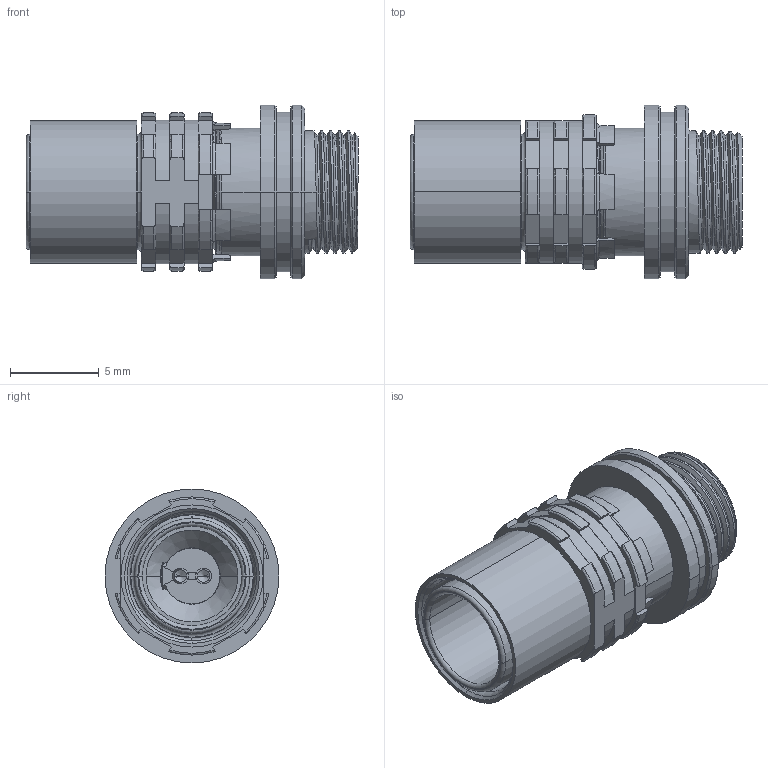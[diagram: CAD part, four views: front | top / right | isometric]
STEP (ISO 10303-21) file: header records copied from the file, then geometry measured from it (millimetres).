
FILE_DESCRIPTION((''),'2;1');
FILE_NAME('KCCWAM-P02WCE0-0000_EXTERN','2020-12-23T12:33:58',('FHeitzinger'),(''),'CREO PARAMETRIC BY PTC INC, 2018300','CREO PARAMETRIC BY PTC INC, 2018300','');
FILE_SCHEMA(('AP242_MANAGED_MODEL_BASED_3D_ENGINEERING_MIM_LF { 1 0 10303 442 1 1 4 }'));
Length unit declared in the file: millimetre
Products named in the file (1): KCCWAM-P02WCE0-0000_EXTERN
Bounding box: 18.7 x 9.8 x 9.8 mm (x, y, z)
Volume: 577.6 mm3; surface area: 1693.3 mm2
Topology: 1 solids, 1 shells, 496 faces, 1461 edges, 960 vertices
Faces by surface type: plane 167, cylinder 136, torus 89, cone 80, bspline 22, sphere 2
Entity records: 27384 total; most frequent: CARTESIAN_POINT 12602, ORIENTED_EDGE 2914, DIRECTION 2633, EDGE_CURVE 1457, AXIS2_PLACEMENT_3D 1033, VERTEX_POINT 960, VECTOR 567, LINE 567
